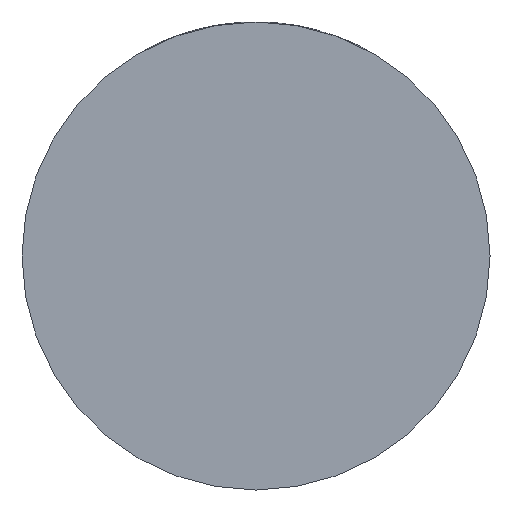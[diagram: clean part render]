
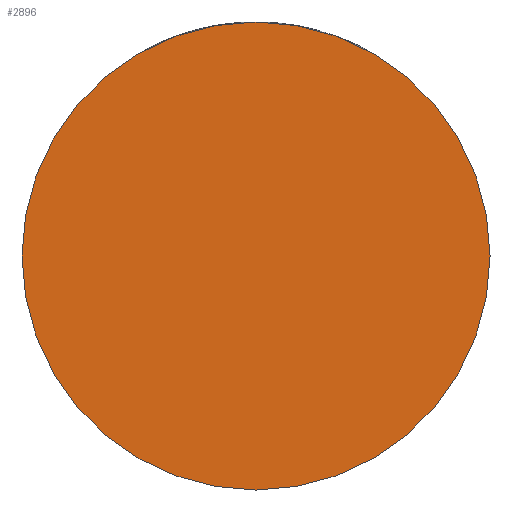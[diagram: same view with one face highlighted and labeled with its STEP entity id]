
A CAD part, front view. The second image highlights one B-rep face of the part: STEP entity #2896.
In plain terms, the highlighted planar face has unit normal (0, -1, 0).
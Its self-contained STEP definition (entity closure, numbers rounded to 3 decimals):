
#353 = CIRCLE ( 'NONE', #2116, 39. ) ;
#507 = CARTESIAN_POINT ( 'NONE',  ( 0., -39., 0. ) ) ;
#633 = ORIENTED_EDGE ( 'NONE', *, *, #2446, .T. ) ;
#639 = PLANE ( 'NONE',  #924 ) ;
#650 = CARTESIAN_POINT ( 'NONE',  ( 39., -39., 0. ) ) ;
#924 = AXIS2_PLACEMENT_3D ( 'NONE', #2046, #2067, #2432 ) ;
#1312 = ORIENTED_EDGE ( 'NONE', *, *, #2186, .T. ) ;
#1677 = CARTESIAN_POINT ( 'NONE',  ( -39., -39., 0. ) ) ;
#2018 = VERTEX_POINT ( 'NONE', #650 ) ;
#2046 = CARTESIAN_POINT ( 'NONE',  ( 0., -39., 0. ) ) ;
#2067 = DIRECTION ( 'NONE',  ( 0., -1., 0. ) ) ;
#2068 = EDGE_LOOP ( 'NONE', ( #633, #1312 ) ) ;
#2116 = AXIS2_PLACEMENT_3D ( 'NONE', #2210, #4324, #3634 ) ;
#2186 = EDGE_CURVE ( 'NONE', #2018, #2748, #353, .T. ) ;
#2210 = CARTESIAN_POINT ( 'NONE',  ( 0., -39., 0. ) ) ;
#2242 = CIRCLE ( 'NONE', #2613, 39. ) ;
#2432 = DIRECTION ( 'NONE',  ( 1., 0., 0. ) ) ;
#2446 = EDGE_CURVE ( 'NONE', #2748, #2018, #2242, .T. ) ;
#2613 = AXIS2_PLACEMENT_3D ( 'NONE', #507, #2950, #4423 ) ;
#2748 = VERTEX_POINT ( 'NONE', #1677 ) ;
#2896 = ADVANCED_FACE ( 'NONE', ( #4501 ), #639, .T. ) ;
#2950 = DIRECTION ( 'NONE',  ( 0., -1., 0. ) ) ;
#3634 = DIRECTION ( 'NONE',  ( 1., 0., 0. ) ) ;
#4324 = DIRECTION ( 'NONE',  ( 0., -1., 0. ) ) ;
#4423 = DIRECTION ( 'NONE',  ( 1., 0., 0. ) ) ;
#4501 = FACE_OUTER_BOUND ( 'NONE', #2068, .T. ) ;
